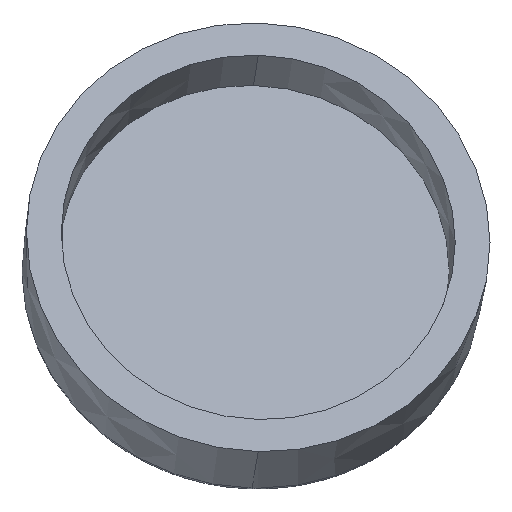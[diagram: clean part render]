
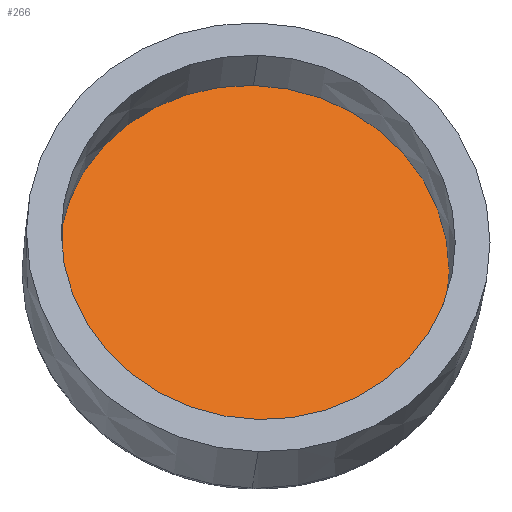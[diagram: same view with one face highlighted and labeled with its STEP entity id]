
A CAD part, top view. The second image highlights one B-rep face of the part: STEP entity #266.
In plain terms, the highlighted planar face has unit normal (0.062, 0.383, 0.922).
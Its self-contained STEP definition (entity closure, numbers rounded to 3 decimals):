
#1 = DIRECTION ( 'NONE',  ( 0., -0.923, 0.384 ) ) ;
#28 = AXIS2_PLACEMENT_3D ( 'NONE', #298, #31, #146 ) ;
#29 = VERTEX_POINT ( 'NONE', #41 ) ;
#31 = DIRECTION ( 'NONE',  ( 0.062, 0.383, 0.922 ) ) ;
#41 = CARTESIAN_POINT ( 'NONE',  ( -20.551, 43.75, 65.286 ) ) ;
#48 = FACE_OUTER_BOUND ( 'NONE', #152, .T. ) ;
#68 = CIRCLE ( 'NONE', #294, 16.886 ) ;
#70 = AXIS2_PLACEMENT_3D ( 'NONE', #331, #187, #107 ) ;
#72 = DIRECTION ( 'NONE',  ( 0.062, 0.383, 0.922 ) ) ;
#75 = CARTESIAN_POINT ( 'NONE',  ( -20.551, 28.157, 71.766 ) ) ;
#83 = ORIENTED_EDGE ( 'NONE', *, *, #311, .T. ) ;
#105 = CARTESIAN_POINT ( 'NONE',  ( -20.551, 12.563, 78.246 ) ) ;
#107 = DIRECTION ( 'NONE',  ( 0., -0.923, 0.384 ) ) ;
#146 = DIRECTION ( 'NONE',  ( 0., -0.923, 0.384 ) ) ;
#152 = EDGE_LOOP ( 'NONE', ( #83, #257 ) ) ;
#187 = DIRECTION ( 'NONE',  ( 0.062, 0.383, 0.922 ) ) ;
#213 = CIRCLE ( 'NONE', #70, 16.886 ) ;
#242 = PLANE ( 'NONE',  #28 ) ;
#257 = ORIENTED_EDGE ( 'NONE', *, *, #325, .T. ) ;
#266 = ADVANCED_FACE ( 'NONE', ( #48 ), #242, .T. ) ;
#288 = VERTEX_POINT ( 'NONE', #105 ) ;
#294 = AXIS2_PLACEMENT_3D ( 'NONE', #75, #72, #1 ) ;
#298 = CARTESIAN_POINT ( 'NONE',  ( -20.551, 28.157, 71.766 ) ) ;
#311 = EDGE_CURVE ( 'NONE', #288, #29, #68, .T. ) ;
#325 = EDGE_CURVE ( 'NONE', #29, #288, #213, .T. ) ;
#331 = CARTESIAN_POINT ( 'NONE',  ( -20.551, 28.157, 71.766 ) ) ;
